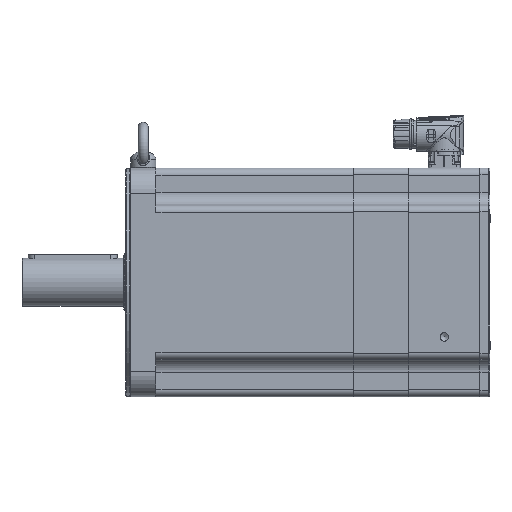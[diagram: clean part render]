
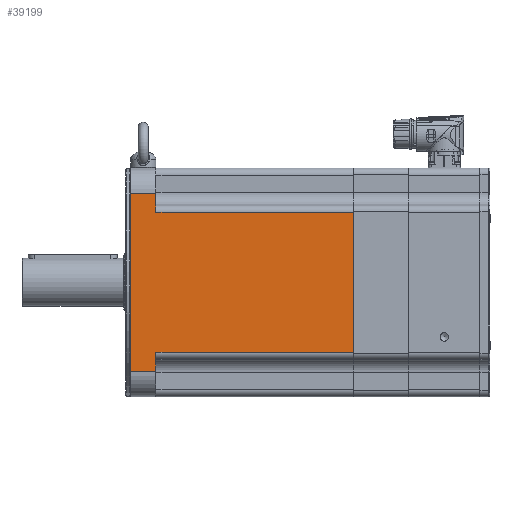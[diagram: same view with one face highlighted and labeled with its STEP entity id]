
A CAD part, left-side view. The second image highlights one B-rep face of the part: STEP entity #39199.
In plain terms, the highlighted planar face has unit normal (-1, 0, 0) as drawn and (1, 0, 0) by its records, which use the part's own axes.
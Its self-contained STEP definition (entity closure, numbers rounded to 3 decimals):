
#2920=PLANE('',#56548);
#13881=ORIENTED_EDGE('',*,*,#20584,.F.);
#13882=ORIENTED_EDGE('',*,*,#20656,.T.);
#13883=ORIENTED_EDGE('',*,*,#20622,.F.);
#13884=ORIENTED_EDGE('',*,*,#20657,.T.);
#13885=ORIENTED_EDGE('',*,*,#20658,.F.);
#13886=ORIENTED_EDGE('',*,*,#20659,.T.);
#13887=ORIENTED_EDGE('',*,*,#20644,.F.);
#13888=ORIENTED_EDGE('',*,*,#20660,.T.);
#20584=EDGE_CURVE('',#24857,#24858,#27755,.T.);
#20622=EDGE_CURVE('',#24895,#24896,#27769,.T.);
#20644=EDGE_CURVE('',#24917,#24918,#27776,.T.);
#20656=EDGE_CURVE('',#24857,#24896,#27784,.F.);
#20657=EDGE_CURVE('',#24895,#24925,#27785,.T.);
#20658=EDGE_CURVE('',#24926,#24925,#27786,.T.);
#20659=EDGE_CURVE('',#24926,#24918,#27787,.F.);
#20660=EDGE_CURVE('',#24917,#24858,#27788,.T.);
#24857=VERTEX_POINT('',#87558);
#24858=VERTEX_POINT('',#87560);
#24895=VERTEX_POINT('',#87645);
#24896=VERTEX_POINT('',#87647);
#24917=VERTEX_POINT('',#87698);
#24918=VERTEX_POINT('',#87699);
#24925=VERTEX_POINT('',#87723);
#24926=VERTEX_POINT('',#87725);
#27755=LINE('',#87559,#30224);
#27769=LINE('',#87646,#30238);
#27776=LINE('',#87697,#30245);
#27784=LINE('',#87721,#30253);
#27785=LINE('',#87722,#30254);
#27786=LINE('',#87724,#30255);
#27787=LINE('',#87726,#30256);
#27788=LINE('',#87727,#30257);
#30224=VECTOR('',#66059,1000.);
#30238=VECTOR('',#66143,1000.);
#30245=VECTOR('',#66196,1000.);
#30253=VECTOR('',#66220,1000.);
#30254=VECTOR('',#66221,1000.);
#30255=VECTOR('',#66222,1000.);
#30256=VECTOR('',#66223,1000.);
#30257=VECTOR('',#66224,1000.);
#32942=EDGE_LOOP('',(#13881,#13882,#13883,#13884,#13885,#13886,#13887,#13888));
#36009=FACE_BOUND('',#32942,.T.);
#39199=ADVANCED_FACE('',(#36009),#2920,.T.);
#56548=AXIS2_PLACEMENT_3D('',#87720,#66218,#66219);
#66059=DIRECTION('',(0.,0.,-1.));
#66143=DIRECTION('',(0.,0.,-1.));
#66196=DIRECTION('',(0.,0.,-1.));
#66218=DIRECTION('',(1.,0.,0.));
#66219=DIRECTION('',(0.,1.,0.));
#66220=DIRECTION('',(0.,1.,0.));
#66221=DIRECTION('',(0.,-1.,0.));
#66222=DIRECTION('',(0.,0.,1.));
#66223=DIRECTION('',(0.,-1.,0.));
#66224=DIRECTION('',(0.,1.,0.));
#87558=CARTESIAN_POINT('',(90.,176.8,55.2));
#87559=CARTESIAN_POINT('',(90.,176.8,-90.));
#87560=CARTESIAN_POINT('',(90.,176.8,-55.2));
#87645=CARTESIAN_POINT('',(90.,21.3,70.));
#87646=CARTESIAN_POINT('',(90.,21.3,-90.));
#87647=CARTESIAN_POINT('',(90.,21.3,55.2));
#87697=CARTESIAN_POINT('',(90.,21.3,-90.));
#87698=CARTESIAN_POINT('',(90.,21.3,-55.2));
#87699=CARTESIAN_POINT('',(90.,21.3,-70.));
#87720=CARTESIAN_POINT('',(90.,491.763,-90.));
#87721=CARTESIAN_POINT('',(90.,491.763,55.2));
#87722=CARTESIAN_POINT('',(90.,491.763,70.));
#87723=CARTESIAN_POINT('',(90.,1.3,70.));
#87724=CARTESIAN_POINT('',(90.,1.3,-90.));
#87725=CARTESIAN_POINT('',(90.,1.3,-70.));
#87726=CARTESIAN_POINT('',(90.,491.763,-70.));
#87727=CARTESIAN_POINT('',(90.,491.763,-55.2));
